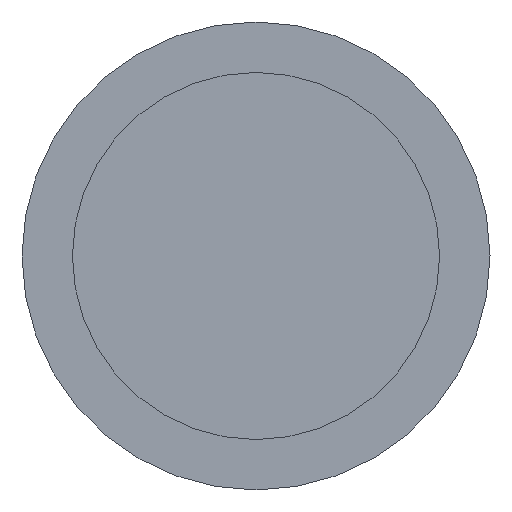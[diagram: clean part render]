
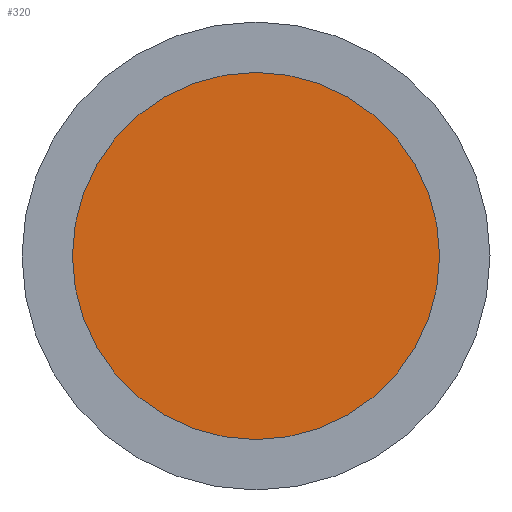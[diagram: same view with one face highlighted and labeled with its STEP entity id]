
A CAD part, left-side view. The second image highlights one B-rep face of the part: STEP entity #320.
In plain terms, the highlighted planar face has unit normal (-1, 0, 0).
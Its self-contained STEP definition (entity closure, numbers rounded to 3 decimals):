
#320 = ADVANCED_FACE( '', ( #672 ), #673, .F. );
#672 = FACE_OUTER_BOUND( '', #1112, .T. );
#673 = PLANE( '', #1113 );
#1112 = EDGE_LOOP( '', ( #1552 ) );
#1113 = AXIS2_PLACEMENT_3D( '', #1553, #1554, #1555 );
#1552 = ORIENTED_EDGE( '', *, *, #2021, .T. );
#1553 = CARTESIAN_POINT( '', ( -155., -60., 69.281 ) );
#1554 = DIRECTION( '', ( 1., 0., 0. ) );
#1555 = DIRECTION( '', ( 0., 0., 1. ) );
#2021 = EDGE_CURVE( '', #2260, #2260, #2261, .T. );
#2260 = VERTEX_POINT( '', #2540 );
#2261 = CIRCLE( '', #2541, 54. );
#2540 = CARTESIAN_POINT( '', ( -155., 0., -54. ) );
#2541 = AXIS2_PLACEMENT_3D( '', #2841, #2842, #2843 );
#2841 = CARTESIAN_POINT( '', ( -155., 0., 0. ) );
#2842 = DIRECTION( '', ( -1., 0., 0. ) );
#2843 = DIRECTION( '', ( 0., 0., -1. ) );
